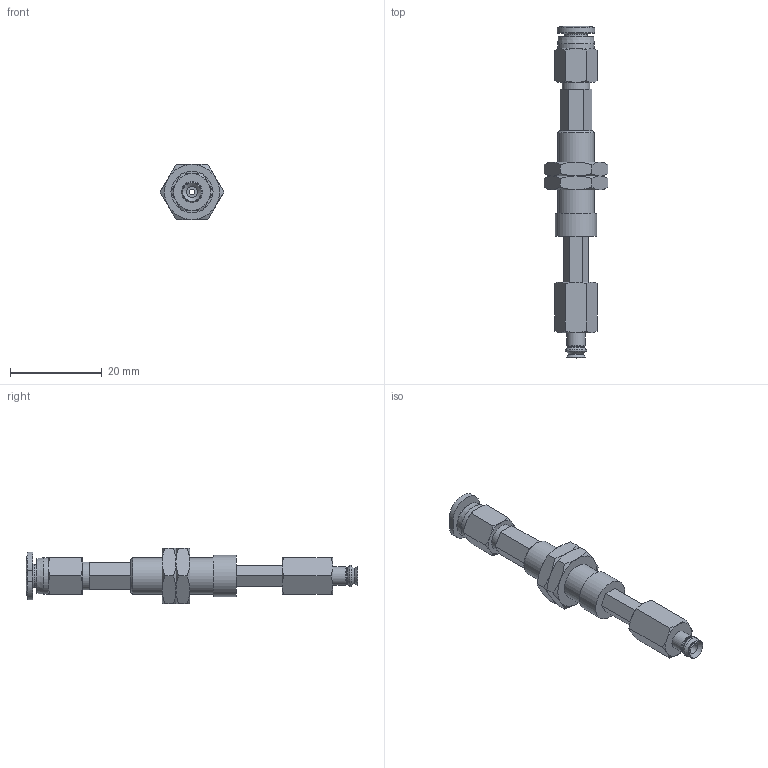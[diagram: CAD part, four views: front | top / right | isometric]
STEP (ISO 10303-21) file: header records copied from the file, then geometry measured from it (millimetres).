
FILE_DESCRIPTION(('STEP AP203'),'1');
FILE_NAME('-O.stp','2025-08-27T06:08:33',(' '),(' '),'Spatial InterOp 3D',' ',' ');
FILE_SCHEMA(('CONFIG_CONTROL_DESIGN'));
Length unit declared in the file: millimetre
Products named in the file (7): BNABPJTH-4-10-※-O; ADAPTER; NAPFTH-2A-10-MBODY; Nut-2A-10-h; NAPFTH-2A-10-FBODY; BPJG-4-※; PC-C_04-M3
Assembly tree (7 placements, depth 2):
  BNABPJTH-4-10-※-O
    ADAPTER
    NAPFTH-2A-10-MBODY
    Nut-2A-10-h  x2
    NAPFTH-2A-10-FBODY
    BPJG-4-※
    PC-C_04-M3
Bounding box: 13.86 x 72.27 x 12 mm (x, y, z)
Volume: 2772.5 mm3; surface area: 4068.8 mm2
Topology: 6 solids, 8 shells, 175 faces, 371 edges, 224 vertices
Faces by surface type: plane 70, cone 65, cylinder 22, torus 11, bspline 4, revolution 3
Full cylindrical faces by diameter (mm): 1.2 x2, 2 x2, 2.4 x1, 2.459 x1, 2.5 x2, 3 x3, 4 x1, 4.9 x1, 6 x1, 6.1 x1, 7.188 x2, 8 x2, 9 x1
Entity records: 4466 total; most frequent: CARTESIAN_POINT 1196, DIRECTION 603, ORIENTED_EDGE 528, EDGE_CURVE 265, AXIS2_PLACEMENT_3D 258, EDGE_LOOP 222, VERTEX_POINT 185, FACE_OUTER_BOUND 122
